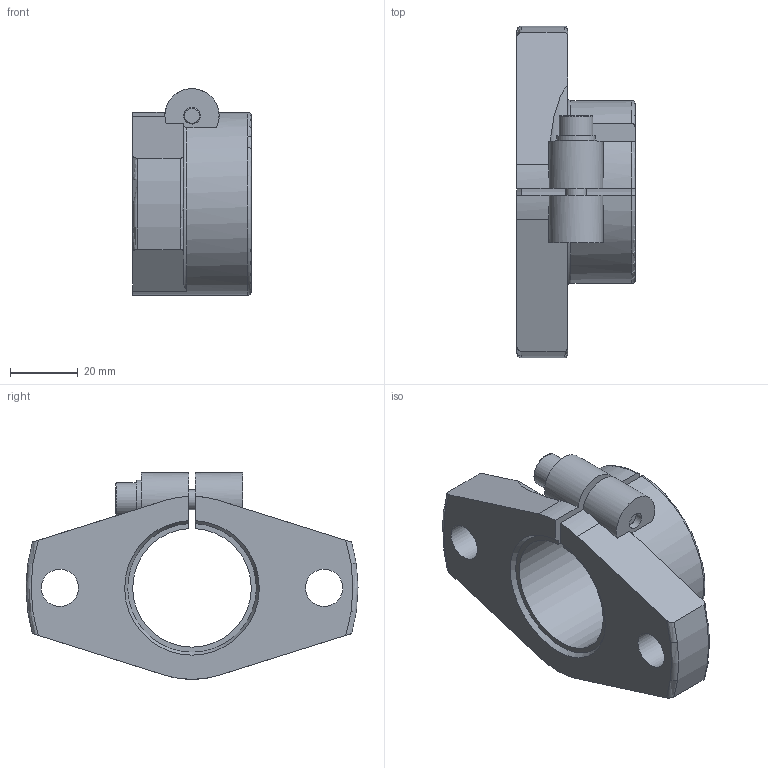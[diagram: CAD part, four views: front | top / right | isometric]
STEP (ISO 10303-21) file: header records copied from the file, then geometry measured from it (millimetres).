
FILE_DESCRIPTION((''),'2;1');
FILE_NAME('D:\製品 (図面)\カタログ用3D\シャフトブロック関連\STEP形式\SF\SF35.stp','2010-06-01T16:26:21',('Tsuchiya'),(''),'Autodesk Inventor 10','Autodesk Inventor 10','');
FILE_SCHEMA(('AUTOMOTIVE_DESIGN { 1 0 10303 214 1 1 1 1 }'));
Length unit declared in the file: millimetre
Products named in the file (1): SF35
Bounding box: 35 x 98 x 61 mm (x, y, z)
Volume: 71016.6 mm3; surface area: 19587.7 mm2
Topology: 1 solids, 1 shells, 55 faces, 149 edges, 100 vertices
Faces by surface type: plane 25, cylinder 15, torus 7, cone 4, bspline 4
Full cylindrical faces by diameter (mm): 6 x1, 10 x1, 11 x2, 11.5 x1
Entity records: 2042 total; most frequent: CARTESIAN_POINT 743, ORIENTED_EDGE 264, DIRECTION 253, EDGE_CURVE 132, AXIS2_PLACEMENT_3D 101, VERTEX_POINT 93, EDGE_LOOP 75, FACE_OUTER_BOUND 55
